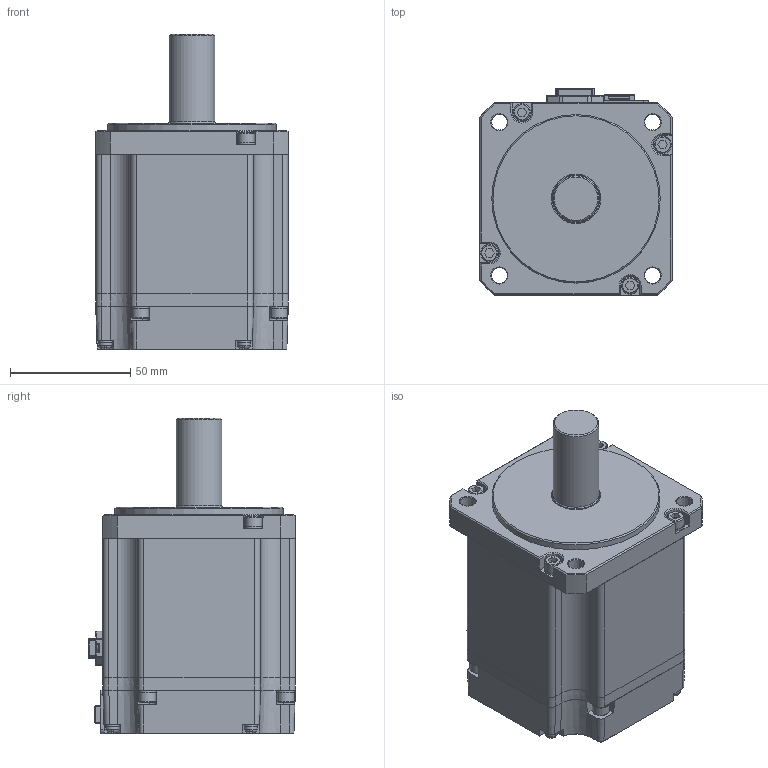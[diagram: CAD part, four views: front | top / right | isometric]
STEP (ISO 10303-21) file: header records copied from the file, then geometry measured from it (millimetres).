
FILE_DESCRIPTION (( 'STEP AP214' ), '1' );
FILE_NAME ('EM08GA003G03_Out Line(APM-EC08AM3N).STEP', '2022-11-10T03:16:25', ( '' ), ( '' ), 'SwSTEP 2.0', 'SolidWorks 2021', '' );
FILE_SCHEMA (( 'AUTOMOTIVE_DESIGN' ));
Length unit declared in the file: millimetre
Products named in the file (1): EM08GA003G03_Out Line(APM-EC08AM3N)
Bounding box: 80 x 85.9 x 131.2 mm (x, y, z)
Volume: 535194.9 mm3; surface area: 88640.1 mm2
Topology: 32 solids, 33 shells, 1425 faces, 3541 edges, 2250 vertices
Faces by surface type: plane 1029, cylinder 206, cone 124, torus 31, bspline 21, sphere 14
Full cylindrical faces by diameter (mm): 1.589 x1, 1.6 x9, 2 x2, 2.1 x2, 2.5 x4, 3 x8, 3.3 x8, 4 x12, 4.5 x8, 5.4 x8, 7 x8, 7.2 x8, 19 x1, 19.8 x1, 20.6 x1, 70 x1
Entity records: 57834 total; most frequent: CARTESIAN_POINT 8799, ORIENTED_EDGE 6716, DIRECTION 6499, EDGE_CURVE 3358, VECTOR 2495, LINE 2495, VERTEX_POINT 2211, AXIS2_PLACEMENT_3D 2002
